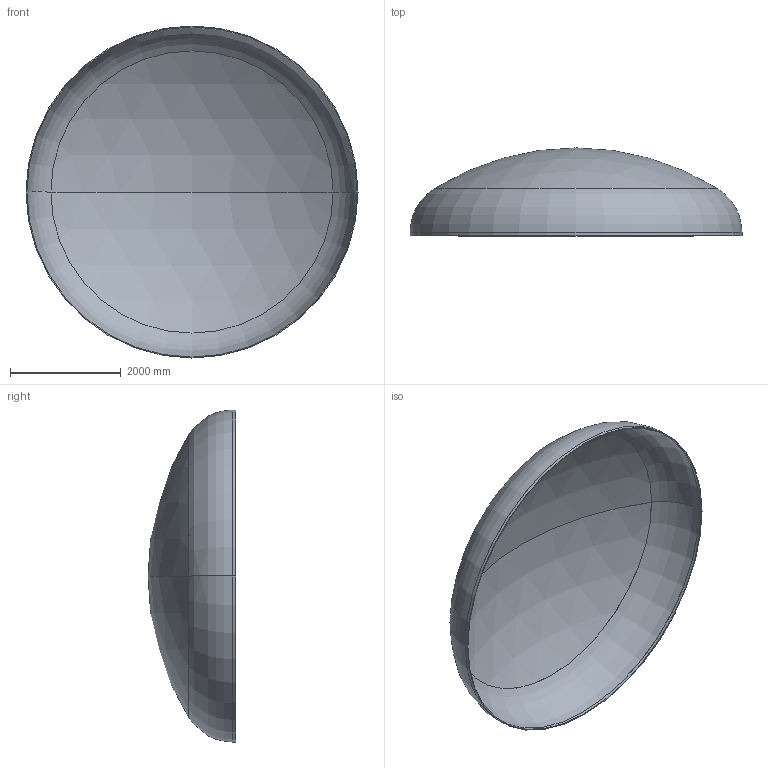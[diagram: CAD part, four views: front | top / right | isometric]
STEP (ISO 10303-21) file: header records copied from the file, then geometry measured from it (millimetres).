
FILE_DESCRIPTION (( 'STEP AP203' ), '1' );
FILE_NAME ('DIN 28013 Korbbogenform_-_Boden DIN 28013 - 6000 x 55 - I - s=16.step', '2016-07-04T10:35:53', ( '' ), ( '' ), 'SwSTEP 2.0', 'SolidWorks 2013', '' );
FILE_SCHEMA (( 'CONFIG_CONTROL_DESIGN' ));
Length unit declared in the file: millimetre
Products named in the file (1): DIN 28013 Korbbogenform_-_Boden DIN 28013 - 6000 x 55 - I - s=16
Bounding box: 6000 x 1588.3 x 6000 mm (x, y, z)
Volume: 641070325.2 mm3; surface area: 80435082.8 mm2
Topology: 1 solids, 1 shells, 13 faces, 24 edges, 14 vertices
Faces by surface type: torus 4, cylinder 4, sphere 4, plane 1
Entity records: 407 total; most frequent: DIRECTION 72, CARTESIAN_POINT 52, ORIENTED_EDGE 48, AXIS2_PLACEMENT_3D 34, EDGE_CURVE 24, CIRCLE 20, VERTEX_POINT 14, EDGE_LOOP 14
